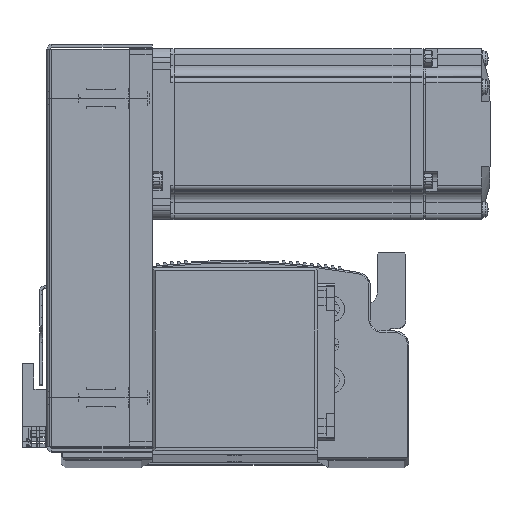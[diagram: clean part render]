
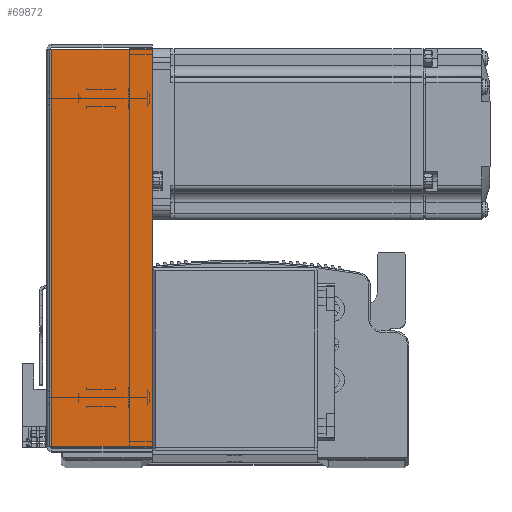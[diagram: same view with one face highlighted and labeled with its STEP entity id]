
A CAD part, top view. The second image highlights one B-rep face of the part: STEP entity #69872.
In plain terms, the highlighted planar face has unit normal (0, 0, 1) as drawn and (0, 0, -1) by its records, which use the part's own axes.
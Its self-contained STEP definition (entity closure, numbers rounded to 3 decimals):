
#622 = DIRECTION ( 'NONE',  ( 1., 0., 0. ) ) ;
#648 = DIRECTION ( 'NONE',  ( 0., 1., 0. ) ) ;
#670 = CARTESIAN_POINT ( 'NONE',  ( -69.793, 0., -33.5 ) ) ;
#697 = CARTESIAN_POINT ( 'NONE',  ( 71.5, 0.737, -33.5 ) ) ;
#727 = CARTESIAN_POINT ( 'NONE',  ( 0., 36., -33.5 ) ) ;
#731 = DIRECTION ( 'NONE',  ( 1., 0., 0. ) ) ;
#766 = CARTESIAN_POINT ( 'NONE',  ( 69.793, 0., -33.5 ) ) ;
#789 = DIRECTION ( 'NONE',  ( 0., 1., 0. ) ) ;
#2726 = EDGE_LOOP ( 'NONE', ( #72843, #72873, #72877, #72868 ) ) ;
#26668 = AXIS2_PLACEMENT_3D ( 'NONE', #55996, #55983, #56023 ) ;
#30052 = EDGE_CURVE ( 'NONE', #64243, #64380, #41255, .T. ) ;
#30069 = EDGE_CURVE ( 'NONE', #64243, #64305, #41328, .T. ) ;
#30090 = EDGE_CURVE ( 'NONE', #64305, #64326, #41273, .T. ) ;
#30105 = EDGE_CURVE ( 'NONE', #64380, #64326, #41297, .T. ) ;
#41255 = LINE ( 'NONE', #670, #41256 ) ;
#41256 = VECTOR ( 'NONE', #648, 1000. ) ;
#41273 = LINE ( 'NONE', #766, #41281 ) ;
#41281 = VECTOR ( 'NONE', #789, 1000. ) ;
#41297 = LINE ( 'NONE', #727, #41302 ) ;
#41302 = VECTOR ( 'NONE', #731, 1000. ) ;
#41326 = VECTOR ( 'NONE', #622, 1000. ) ;
#41328 = LINE ( 'NONE', #697, #41326 ) ;
#55983 = DIRECTION ( 'NONE',  ( 0., 0., 1. ) ) ;
#55996 = CARTESIAN_POINT ( 'NONE',  ( 0., 0., -33.5 ) ) ;
#56023 = DIRECTION ( 'NONE',  ( 0., -1., 0. ) ) ;
#56034 = PLANE ( 'NONE',  #26668 ) ;
#64243 = VERTEX_POINT ( 'NONE', #81069 ) ;
#64305 = VERTEX_POINT ( 'NONE', #81247 ) ;
#64326 = VERTEX_POINT ( 'NONE', #81342 ) ;
#64380 = VERTEX_POINT ( 'NONE', #81601 ) ;
#69872 = ADVANCED_FACE ( 'NONE', ( #74066 ), #56034, .F. ) ;
#72843 = ORIENTED_EDGE ( 'NONE', *, *, #30069, .F. ) ;
#72868 = ORIENTED_EDGE ( 'NONE', *, *, #30090, .F. ) ;
#72873 = ORIENTED_EDGE ( 'NONE', *, *, #30052, .T. ) ;
#72877 = ORIENTED_EDGE ( 'NONE', *, *, #30105, .T. ) ;
#74066 = FACE_OUTER_BOUND ( 'NONE', #2726, .T. ) ;
#81069 = CARTESIAN_POINT ( 'NONE',  ( -69.793, 0.737, -33.5 ) ) ;
#81247 = CARTESIAN_POINT ( 'NONE',  ( 69.793, 0.737, -33.5 ) ) ;
#81342 = CARTESIAN_POINT ( 'NONE',  ( 69.793, 36., -33.5 ) ) ;
#81601 = CARTESIAN_POINT ( 'NONE',  ( -69.793, 36., -33.5 ) ) ;
